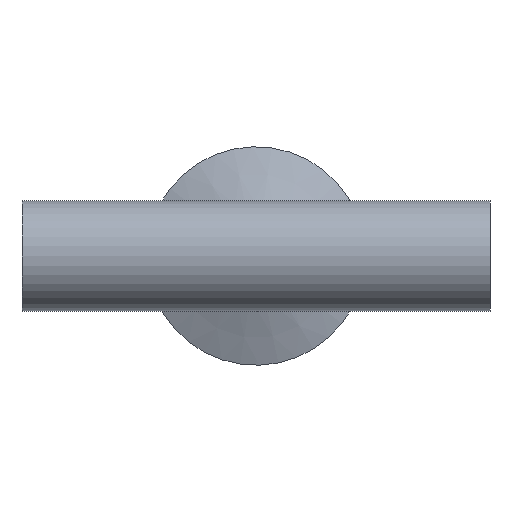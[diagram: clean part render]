
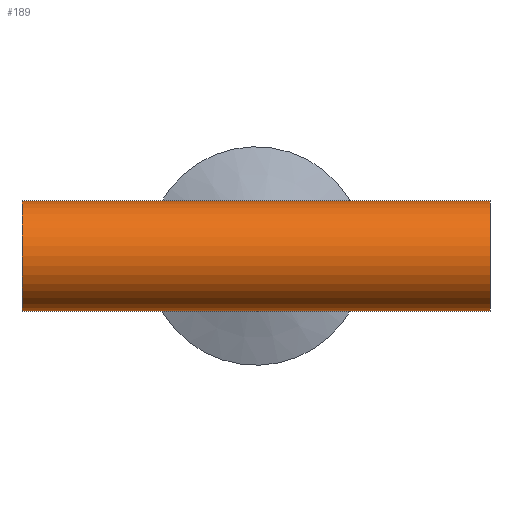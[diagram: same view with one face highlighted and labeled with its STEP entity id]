
A CAD part, front view. The second image highlights one B-rep face of the part: STEP entity #189.
In plain terms, the highlighted cylindrical face has radius 12.7 mm (diameter 25.4 mm), a partial arc.
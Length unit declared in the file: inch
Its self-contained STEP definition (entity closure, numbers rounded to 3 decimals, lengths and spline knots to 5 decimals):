
#29 = DIRECTION ( 'NONE',  ( -1., 0., 0. ) ) ;
#55 = CIRCLE ( 'NONE', #757, 0.5 ) ;
#57 = FACE_OUTER_BOUND ( 'NONE', #522, .T. ) ;
#71 = CARTESIAN_POINT ( 'NONE',  ( 0., 0., -0.5 ) ) ;
#84 = VECTOR ( 'NONE', #171, 39.37008 ) ;
#86 = CARTESIAN_POINT ( 'NONE',  ( 2.125, 0., 0.5 ) ) ;
#91 = DIRECTION ( 'NONE',  ( -1., 0., 0. ) ) ;
#95 = DIRECTION ( 'NONE',  ( 0., 0., 1. ) ) ;
#135 = CARTESIAN_POINT ( 'NONE',  ( -2.125, 0., 0. ) ) ;
#171 = DIRECTION ( 'NONE',  ( -1., 0., 0. ) ) ;
#189 = ADVANCED_FACE ( 'NONE', ( #57 ), #734, .T. ) ;
#207 = LINE ( 'NONE', #378, #261 ) ;
#217 = DIRECTION ( 'NONE',  ( 0., 0., -1. ) ) ;
#258 = CARTESIAN_POINT ( 'NONE',  ( 2.125, 0., 0. ) ) ;
#261 = VECTOR ( 'NONE', #1030, 39.37008 ) ;
#264 = ORIENTED_EDGE ( 'NONE', *, *, #400, .T. ) ;
#291 = ORIENTED_EDGE ( 'NONE', *, *, #650, .F. ) ;
#295 = VERTEX_POINT ( 'NONE', #370 ) ;
#326 = CARTESIAN_POINT ( 'NONE',  ( -2.125, 0., 0.5 ) ) ;
#365 = CARTESIAN_POINT ( 'NONE',  ( 2.125, 0., -0.5 ) ) ;
#370 = CARTESIAN_POINT ( 'NONE',  ( 2.125, 0., 0.5 ) ) ;
#378 = CARTESIAN_POINT ( 'NONE',  ( 2.125, 0., -0.5 ) ) ;
#400 = EDGE_CURVE ( 'NONE', #295, #744, #571, .T. ) ;
#403 = CARTESIAN_POINT ( 'NONE',  ( 0., 0., 0.5 ) ) ;
#404 = CARTESIAN_POINT ( 'NONE',  ( 2.125, 0., 0. ) ) ;
#449 = ORIENTED_EDGE ( 'NONE', *, *, #1032, .T. ) ;
#450 = EDGE_CURVE ( 'NONE', #1013, #689, #55, .T. ) ;
#488 = DIRECTION ( 'NONE',  ( 0., 0., -1. ) ) ;
#490 = ORIENTED_EDGE ( 'NONE', *, *, #519, .F. ) ;
#499 = CARTESIAN_POINT ( 'NONE',  ( 2.125, 0., 0.5 ) ) ;
#519 = EDGE_CURVE ( 'NONE', #295, #647, #644, .T. ) ;
#522 = EDGE_LOOP ( 'NONE', ( #775, #490, #264, #449, #919, #291 ) ) ;
#529 = VECTOR ( 'NONE', #29, 39.37008 ) ;
#571 = LINE ( 'NONE', #86, #84 ) ;
#594 = LINE ( 'NONE', #499, #840 ) ;
#598 = DIRECTION ( 'NONE',  ( -1., 0., 0. ) ) ;
#602 = EDGE_CURVE ( 'NONE', #647, #844, #772, .T. ) ;
#644 = CIRCLE ( 'NONE', #737, 0.5 ) ;
#647 = VERTEX_POINT ( 'NONE', #834 ) ;
#650 = EDGE_CURVE ( 'NONE', #844, #689, #207, .T. ) ;
#689 = VERTEX_POINT ( 'NONE', #944 ) ;
#734 = CYLINDRICAL_SURFACE ( 'NONE', #795, 0.5 ) ;
#737 = AXIS2_PLACEMENT_3D ( 'NONE', #404, #1035, #488 ) ;
#744 = VERTEX_POINT ( 'NONE', #403 ) ;
#748 = DIRECTION ( 'NONE',  ( 1., 0., 0. ) ) ;
#757 = AXIS2_PLACEMENT_3D ( 'NONE', #135, #748, #217 ) ;
#772 = LINE ( 'NONE', #365, #529 ) ;
#775 = ORIENTED_EDGE ( 'NONE', *, *, #602, .F. ) ;
#795 = AXIS2_PLACEMENT_3D ( 'NONE', #258, #91, #95 ) ;
#834 = CARTESIAN_POINT ( 'NONE',  ( 2.125, 0., -0.5 ) ) ;
#840 = VECTOR ( 'NONE', #598, 39.37008 ) ;
#844 = VERTEX_POINT ( 'NONE', #71 ) ;
#919 = ORIENTED_EDGE ( 'NONE', *, *, #450, .T. ) ;
#944 = CARTESIAN_POINT ( 'NONE',  ( -2.125, 0., -0.5 ) ) ;
#1013 = VERTEX_POINT ( 'NONE', #326 ) ;
#1030 = DIRECTION ( 'NONE',  ( -1., 0., 0. ) ) ;
#1032 = EDGE_CURVE ( 'NONE', #744, #1013, #594, .T. ) ;
#1035 = DIRECTION ( 'NONE',  ( 1., 0., 0. ) ) ;
